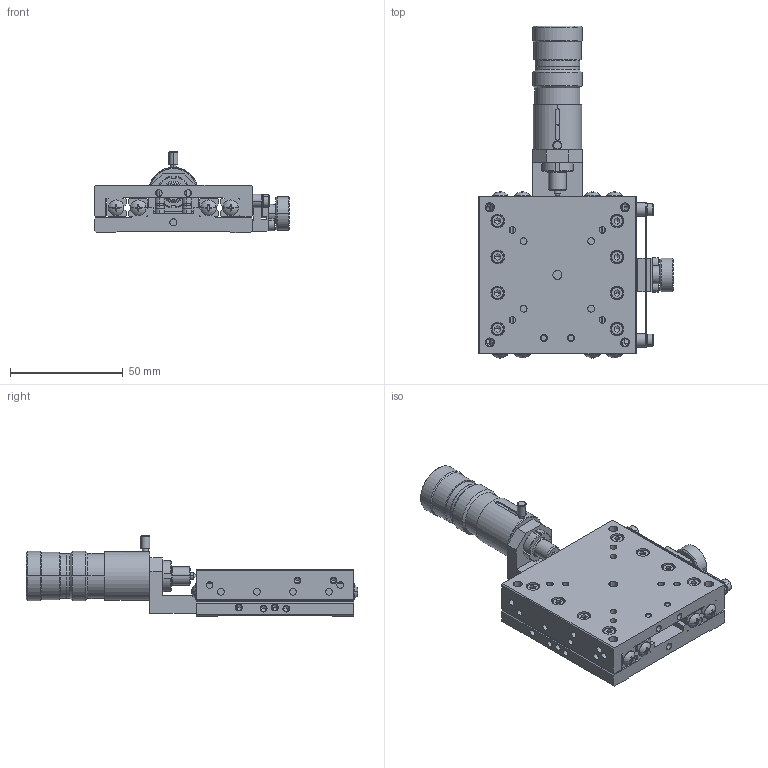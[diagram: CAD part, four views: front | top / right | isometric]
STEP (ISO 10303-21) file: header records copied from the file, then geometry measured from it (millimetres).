
FILE_DESCRIPTION (( 'STEP AP214' ), '1' );
FILE_NAME ('XM07A-C3-R-CL.STEP', '2009-05-11T05:32:06', ( ' ' ), ( ' ' ), 'SwSTEP 2.0', 'SolidWorks 2008', '' );
FILE_SCHEMA (( 'AUTOMOTIVE_DESIGN' ));
Length unit declared in the file: millimetre
Products named in the file (5): 001490-1011(3D)-1; 001490-1011(3D)-Part-2-1; 001490-1011(3D)-Part-1-1; 001490-1023(3D)-1; XM07A-C3-R-CL
Assembly tree (4 placements, depth 3):
  XM07A-C3-R-CL
    001490-1023(3D)-1
    001490-1011(3D)-1
      001490-1011(3D)-Part-2-1
      001490-1011(3D)-Part-1-1
Bounding box: 86.5 x 147.37 x 36 mm (x, y, z)
Volume: 109831.4 mm3; surface area: 52370.4 mm2
Topology: 3 solids, 39 shells, 1746 faces, 4191 edges, 2522 vertices
Faces by surface type: plane 788, cylinder 553, cone 372, sphere 17, torus 16
Entity records: 51093 total; most frequent: CARTESIAN_POINT 9652, DIRECTION 9196, ORIENTED_EDGE 8210, EDGE_CURVE 4105, AXIS2_PLACEMENT_3D 3532, VERTEX_POINT 2521, VECTOR 2132, LINE 2132
